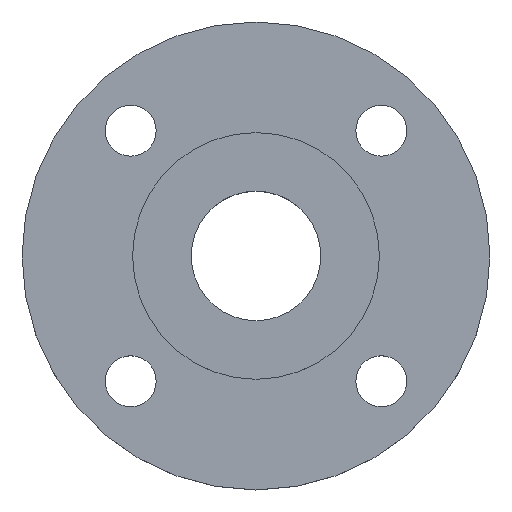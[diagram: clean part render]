
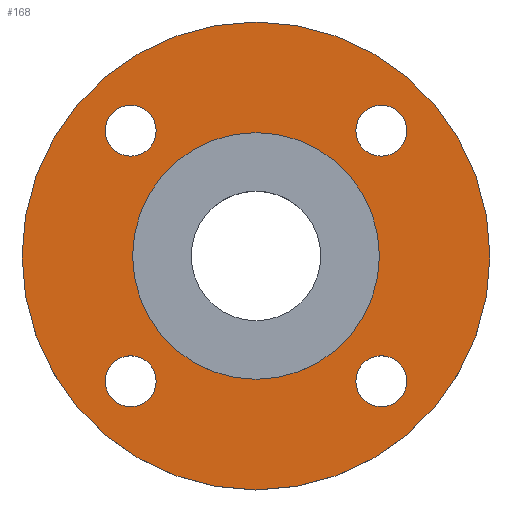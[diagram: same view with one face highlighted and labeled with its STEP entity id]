
A CAD part, top view. The second image highlights one B-rep face of the part: STEP entity #168.
In plain terms, the highlighted planar face has unit normal (0, 0, 1).
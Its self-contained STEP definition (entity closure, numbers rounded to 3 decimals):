
#13 = EDGE_CURVE ( 'NONE', #356, #524, #613, .T. ) ;
#40 = DIRECTION ( 'NONE',  ( -1., 0., 0. ) ) ;
#41 = EDGE_CURVE ( 'NONE', #549, #522, #326, .T. ) ;
#43 = AXIS2_PLACEMENT_3D ( 'NONE', #636, #637, #638 ) ;
#45 = DIRECTION ( 'NONE',  ( 0., 0., -1. ) ) ;
#54 = AXIS2_PLACEMENT_3D ( 'NONE', #256, #718, #720 ) ;
#59 = CIRCLE ( 'NONE', #54, 9. ) ;
#62 = AXIS2_PLACEMENT_3D ( 'NONE', #206, #207, #208 ) ;
#80 = CARTESIAN_POINT ( 'NONE',  ( 0., 0., -4.5 ) ) ;
#98 = EDGE_CURVE ( 'NONE', #405, #436, #127, .T. ) ;
#102 = EDGE_CURVE ( 'NONE', #341, #533, #290, .T. ) ;
#105 = CARTESIAN_POINT ( 'NONE',  ( -35.194, -44.194, -4.5 ) ) ;
#110 = CIRCLE ( 'NONE', #177, 9. ) ;
#112 = DIRECTION ( 'NONE',  ( 0., 0., -1. ) ) ;
#117 = CARTESIAN_POINT ( 'NONE',  ( -53.194, -44.194, -4.5 ) ) ;
#118 = DIRECTION ( 'NONE',  ( -1., 0., 0. ) ) ;
#122 = CARTESIAN_POINT ( 'NONE',  ( 0., 0., -4.5 ) ) ;
#127 = CIRCLE ( 'NONE', #284, 9. ) ;
#128 = CARTESIAN_POINT ( 'NONE',  ( 43.5, 0., -4.5 ) ) ;
#132 = CARTESIAN_POINT ( 'NONE',  ( -53.194, 44.194, -4.5 ) ) ;
#141 = DIRECTION ( 'NONE',  ( 0., 0., -1. ) ) ;
#168 = ADVANCED_FACE ( 'NONE', ( #664, #666, #667, #669, #670, #671 ), #672, .T. ) ;
#177 = AXIS2_PLACEMENT_3D ( 'NONE', #281, #282, #283 ) ;
#182 = CARTESIAN_POINT ( 'NONE',  ( -44.194, -44.194, -4.5 ) ) ;
#183 = CIRCLE ( 'NONE', #323, 43.5 ) ;
#185 = DIRECTION ( 'NONE',  ( 0., 0., -1. ) ) ;
#187 = DIRECTION ( 'NONE',  ( 1., 0., 0. ) ) ;
#206 = CARTESIAN_POINT ( 'NONE',  ( -44.194, 44.194, -4.5 ) ) ;
#207 = DIRECTION ( 'NONE',  ( 0., 0., -1. ) ) ;
#208 = DIRECTION ( 'NONE',  ( 1., 0., 0. ) ) ;
#214 = CARTESIAN_POINT ( 'NONE',  ( -43.5, 0., -4.5 ) ) ;
#216 = CARTESIAN_POINT ( 'NONE',  ( 53.194, 44.194, -4.5 ) ) ;
#218 = CARTESIAN_POINT ( 'NONE',  ( 35.194, 44.194, -4.5 ) ) ;
#222 = CARTESIAN_POINT ( 'NONE',  ( -82.5, 0., -4.5 ) ) ;
#226 = CARTESIAN_POINT ( 'NONE',  ( -35.194, 44.194, -4.5 ) ) ;
#229 = CIRCLE ( 'NONE', #251, 82.5 ) ;
#236 = CARTESIAN_POINT ( 'NONE',  ( 0., 0., -4.5 ) ) ;
#237 = DIRECTION ( 'NONE',  ( 0., 0., -1. ) ) ;
#240 = DIRECTION ( 'NONE',  ( -1., 0., 0. ) ) ;
#243 = CARTESIAN_POINT ( 'NONE',  ( 82.5, 0., -4.5 ) ) ;
#250 = EDGE_CURVE ( 'NONE', #436, #405, #59, .T. ) ;
#251 = AXIS2_PLACEMENT_3D ( 'NONE', #80, #45, #40 ) ;
#256 = CARTESIAN_POINT ( 'NONE',  ( 44.194, -44.194, -4.5 ) ) ;
#263 = CARTESIAN_POINT ( 'NONE',  ( 35.194, -44.194, -4.5 ) ) ;
#276 = EDGE_CURVE ( 'NONE', #522, #549, #689, .T. ) ;
#280 = CARTESIAN_POINT ( 'NONE',  ( 53.194, -44.194, -4.5 ) ) ;
#281 = CARTESIAN_POINT ( 'NONE',  ( 44.194, 44.194, -4.5 ) ) ;
#282 = DIRECTION ( 'NONE',  ( 0., 0., -1. ) ) ;
#283 = DIRECTION ( 'NONE',  ( 1., 0., 0. ) ) ;
#284 = AXIS2_PLACEMENT_3D ( 'NONE', #633, #634, #635 ) ;
#290 = CIRCLE ( 'NONE', #43, 43.5 ) ;
#299 = CARTESIAN_POINT ( 'NONE',  ( 44.194, 44.194, -4.5 ) ) ;
#302 = DIRECTION ( 'NONE',  ( 1., 0., 0. ) ) ;
#304 = AXIS2_PLACEMENT_3D ( 'NONE', #583, #584, #585 ) ;
#323 = AXIS2_PLACEMENT_3D ( 'NONE', #122, #141, #118 ) ;
#326 = CIRCLE ( 'NONE', #334, 9. ) ;
#330 = AXIS2_PLACEMENT_3D ( 'NONE', #673, #674, #675 ) ;
#331 = EDGE_CURVE ( 'NONE', #524, #356, #493, .T. ) ;
#334 = AXIS2_PLACEMENT_3D ( 'NONE', #616, #617, #618 ) ;
#341 = VERTEX_POINT ( 'NONE', #214 ) ;
#342 = VERTEX_POINT ( 'NONE', #216 ) ;
#344 = VERTEX_POINT ( 'NONE', #218 ) ;
#351 = VERTEX_POINT ( 'NONE', #222 ) ;
#352 = ORIENTED_EDGE ( 'NONE', *, *, #98, .T. ) ;
#353 = ORIENTED_EDGE ( 'NONE', *, *, #250, .T. ) ;
#356 = VERTEX_POINT ( 'NONE', #226 ) ;
#378 = EDGE_CURVE ( 'NONE', #386, #351, #491, .T. ) ;
#386 = VERTEX_POINT ( 'NONE', #243 ) ;
#405 = VERTEX_POINT ( 'NONE', #263 ) ;
#413 = AXIS2_PLACEMENT_3D ( 'NONE', #299, #112, #302 ) ;
#416 = CIRCLE ( 'NONE', #413, 9. ) ;
#425 = ORIENTED_EDGE ( 'NONE', *, *, #41, .T. ) ;
#426 = ORIENTED_EDGE ( 'NONE', *, *, #276, .T. ) ;
#427 = ORIENTED_EDGE ( 'NONE', *, *, #13, .T. ) ;
#428 = ORIENTED_EDGE ( 'NONE', *, *, #331, .T. ) ;
#429 = ORIENTED_EDGE ( 'NONE', *, *, #437, .T. ) ;
#432 = ORIENTED_EDGE ( 'NONE', *, *, #518, .T. ) ;
#433 = ORIENTED_EDGE ( 'NONE', *, *, #102, .T. ) ;
#436 = VERTEX_POINT ( 'NONE', #280 ) ;
#437 = EDGE_CURVE ( 'NONE', #342, #344, #110, .T. ) ;
#438 = ORIENTED_EDGE ( 'NONE', *, *, #558, .T. ) ;
#439 = ORIENTED_EDGE ( 'NONE', *, *, #378, .F. ) ;
#441 = ORIENTED_EDGE ( 'NONE', *, *, #668, .F. ) ;
#481 = AXIS2_PLACEMENT_3D ( 'NONE', #236, #237, #240 ) ;
#491 = CIRCLE ( 'NONE', #481, 82.5 ) ;
#493 = CIRCLE ( 'NONE', #62, 9. ) ;
#518 = EDGE_CURVE ( 'NONE', #344, #342, #416, .T. ) ;
#522 = VERTEX_POINT ( 'NONE', #117 ) ;
#524 = VERTEX_POINT ( 'NONE', #132 ) ;
#531 = EDGE_LOOP ( 'NONE', ( #425, #426 ) ) ;
#532 = EDGE_LOOP ( 'NONE', ( #427, #428 ) ) ;
#533 = VERTEX_POINT ( 'NONE', #128 ) ;
#537 = EDGE_LOOP ( 'NONE', ( #439, #441 ) ) ;
#545 = EDGE_LOOP ( 'NONE', ( #433, #438 ) ) ;
#546 = EDGE_LOOP ( 'NONE', ( #429, #432 ) ) ;
#547 = AXIS2_PLACEMENT_3D ( 'NONE', #182, #185, #187 ) ;
#549 = VERTEX_POINT ( 'NONE', #105 ) ;
#558 = EDGE_CURVE ( 'NONE', #533, #341, #183, .T. ) ;
#571 = EDGE_LOOP ( 'NONE', ( #353, #352 ) ) ;
#583 = CARTESIAN_POINT ( 'NONE',  ( -44.194, 44.194, -4.5 ) ) ;
#584 = DIRECTION ( 'NONE',  ( 0., 0., -1. ) ) ;
#585 = DIRECTION ( 'NONE',  ( 1., 0., 0. ) ) ;
#613 = CIRCLE ( 'NONE', #304, 9. ) ;
#616 = CARTESIAN_POINT ( 'NONE',  ( -44.194, -44.194, -4.5 ) ) ;
#617 = DIRECTION ( 'NONE',  ( 0., 0., -1. ) ) ;
#618 = DIRECTION ( 'NONE',  ( 1., 0., 0. ) ) ;
#633 = CARTESIAN_POINT ( 'NONE',  ( 44.194, -44.194, -4.5 ) ) ;
#634 = DIRECTION ( 'NONE',  ( 0., 0., -1. ) ) ;
#635 = DIRECTION ( 'NONE',  ( 1., 0., 0. ) ) ;
#636 = CARTESIAN_POINT ( 'NONE',  ( 0., 0., -4.5 ) ) ;
#637 = DIRECTION ( 'NONE',  ( 0., 0., -1. ) ) ;
#638 = DIRECTION ( 'NONE',  ( -1., 0., 0. ) ) ;
#664 = FACE_BOUND ( 'NONE', #571, .T. ) ;
#666 = FACE_BOUND ( 'NONE', #531, .T. ) ;
#667 = FACE_BOUND ( 'NONE', #532, .T. ) ;
#668 = EDGE_CURVE ( 'NONE', #351, #386, #229, .T. ) ;
#669 = FACE_BOUND ( 'NONE', #546, .T. ) ;
#670 = FACE_BOUND ( 'NONE', #545, .T. ) ;
#671 = FACE_OUTER_BOUND ( 'NONE', #537, .T. ) ;
#672 = PLANE ( 'NONE',  #330 ) ;
#673 = CARTESIAN_POINT ( 'NONE',  ( 43.5, 0., -4.5 ) ) ;
#674 = DIRECTION ( 'NONE',  ( 0., 0., 1. ) ) ;
#675 = DIRECTION ( 'NONE',  ( 1., 0., 0. ) ) ;
#689 = CIRCLE ( 'NONE', #547, 9. ) ;
#718 = DIRECTION ( 'NONE',  ( 0., 0., -1. ) ) ;
#720 = DIRECTION ( 'NONE',  ( 1., 0., 0. ) ) ;
